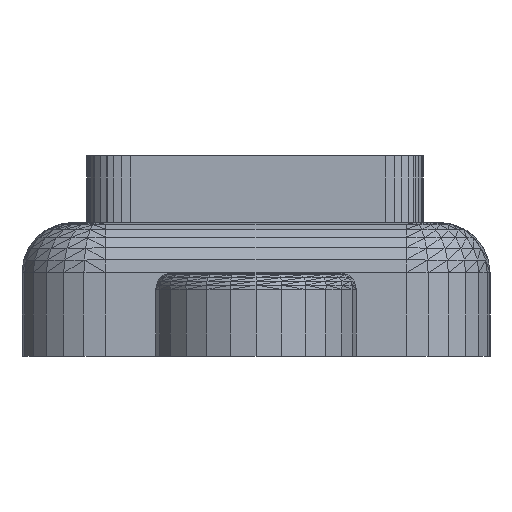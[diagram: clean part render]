
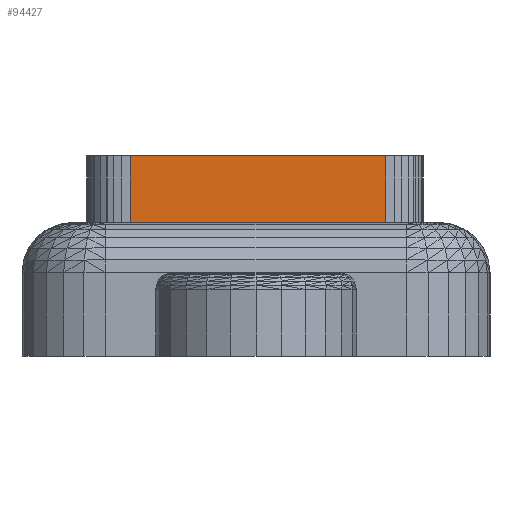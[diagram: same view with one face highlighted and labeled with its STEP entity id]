
A CAD part, left-side view. The second image highlights one B-rep face of the part: STEP entity #94427.
In plain terms, the highlighted planar face has unit normal (-1, 0, 0).
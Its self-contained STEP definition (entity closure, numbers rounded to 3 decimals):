
#126 = PLANE('',#127);
#127 = AXIS2_PLACEMENT_3D('',#128,#129,#130);
#128 = CARTESIAN_POINT('',(83.88,11.2,
    4.));
#129 = DIRECTION('',(-0.,0.,1.));
#130 = DIRECTION('',(1.,0.,0.));
#76035 = VERTEX_POINT('',#76036);
#76036 = CARTESIAN_POINT('',(38.567,3.121,
    4.));
#76050 = PLANE('',#76051);
#76051 = AXIS2_PLACEMENT_3D('',#76052,#76053,#76054);
#76052 = CARTESIAN_POINT('',(38.596,2.859,
    4.));
#76053 = DIRECTION('',(-0.994,-0.11,0.));
#76054 = DIRECTION('',(0.11,-0.994,0.));
#76062 = EDGE_CURVE('',#76035,#76063,#76065,.T.);
#76063 = VERTEX_POINT('',#76064);
#76064 = CARTESIAN_POINT('',(38.567,10.758,
    4.));
#76065 = SURFACE_CURVE('',#76066,(#76070,#76077),.PCURVE_S1.);
#76066 = LINE('',#76067,#76068);
#76067 = CARTESIAN_POINT('',(38.567,3.121,
    4.));
#76068 = VECTOR('',#76069,1.);
#76069 = DIRECTION('',(0.,1.,0.));
#76070 = PCURVE('',#126,#76071);
#76071 = DEFINITIONAL_REPRESENTATION('',(#76072),#76076);
#76072 = LINE('',#76073,#76074);
#76073 = CARTESIAN_POINT('',(-45.313,-8.079));
#76074 = VECTOR('',#76075,1.);
#76075 = DIRECTION('',(0.,1.));
#76076 = ( GEOMETRIC_REPRESENTATION_CONTEXT(2) 
PARAMETRIC_REPRESENTATION_CONTEXT() REPRESENTATION_CONTEXT('2D SPACE',''
  ) );
#76077 = PCURVE('',#76078,#76083);
#76078 = PLANE('',#76079);
#76079 = AXIS2_PLACEMENT_3D('',#76080,#76081,#76082);
#76080 = CARTESIAN_POINT('',(38.567,3.121,
    4.));
#76081 = DIRECTION('',(-1.,0.,0.));
#76082 = DIRECTION('',(0.,0.,-1.));
#76083 = DEFINITIONAL_REPRESENTATION('',(#76084),#76088);
#76084 = LINE('',#76085,#76086);
#76085 = CARTESIAN_POINT('',(0.,-0.));
#76086 = VECTOR('',#76087,1.);
#76087 = DIRECTION('',(0.,-1.));
#76088 = ( GEOMETRIC_REPRESENTATION_CONTEXT(2) 
PARAMETRIC_REPRESENTATION_CONTEXT() REPRESENTATION_CONTEXT('2D SPACE',''
  ) );
#76106 = PLANE('',#76107);
#76107 = AXIS2_PLACEMENT_3D('',#76108,#76109,#76110);
#76108 = CARTESIAN_POINT('',(38.567,10.758,
    4.));
#76109 = DIRECTION('',(-0.999,0.048,0.));
#76110 = DIRECTION('',(-0.048,-0.999,0.));
#92826 = PLANE('',#92827);
#92827 = AXIS2_PLACEMENT_3D('',#92828,#92829,#92830);
#92828 = CARTESIAN_POINT('',(38.654,2.634,
    6.));
#92829 = DIRECTION('',(-0.,-0.,1.));
#92830 = DIRECTION('',(1.,0.,0.));
#94382 = EDGE_CURVE('',#76063,#94383,#94385,.T.);
#94383 = VERTEX_POINT('',#94384);
#94384 = CARTESIAN_POINT('',(38.567,10.758,
    6.));
#94385 = SURFACE_CURVE('',#94386,(#94390,#94397),.PCURVE_S1.);
#94386 = LINE('',#94387,#94388);
#94387 = CARTESIAN_POINT('',(38.567,10.758,
    4.));
#94388 = VECTOR('',#94389,1.);
#94389 = DIRECTION('',(0.,0.,1.));
#94390 = PCURVE('',#76106,#94391);
#94391 = DEFINITIONAL_REPRESENTATION('',(#94392),#94396);
#94392 = LINE('',#94393,#94394);
#94393 = CARTESIAN_POINT('',(0.,0.));
#94394 = VECTOR('',#94395,1.);
#94395 = DIRECTION('',(0.,1.));
#94396 = ( GEOMETRIC_REPRESENTATION_CONTEXT(2) 
PARAMETRIC_REPRESENTATION_CONTEXT() REPRESENTATION_CONTEXT('2D SPACE',''
  ) );
#94397 = PCURVE('',#76078,#94398);
#94398 = DEFINITIONAL_REPRESENTATION('',(#94399),#94403);
#94399 = LINE('',#94400,#94401);
#94400 = CARTESIAN_POINT('',(0.,-7.637));
#94401 = VECTOR('',#94402,1.);
#94402 = DIRECTION('',(-1.,-0.));
#94403 = ( GEOMETRIC_REPRESENTATION_CONTEXT(2) 
PARAMETRIC_REPRESENTATION_CONTEXT() REPRESENTATION_CONTEXT('2D SPACE',''
  ) );
#94427 = ADVANCED_FACE('',(#94428),#76078,.T.);
#94428 = FACE_BOUND('',#94429,.T.);
#94429 = EDGE_LOOP('',(#94430,#94453,#94474,#94475));
#94430 = ORIENTED_EDGE('',*,*,#94431,.T.);
#94431 = EDGE_CURVE('',#76035,#94432,#94434,.T.);
#94432 = VERTEX_POINT('',#94433);
#94433 = CARTESIAN_POINT('',(38.567,3.121,
    6.));
#94434 = SURFACE_CURVE('',#94435,(#94439,#94446),.PCURVE_S1.);
#94435 = LINE('',#94436,#94437);
#94436 = CARTESIAN_POINT('',(38.567,3.121,
    4.));
#94437 = VECTOR('',#94438,1.);
#94438 = DIRECTION('',(0.,0.,1.));
#94439 = PCURVE('',#76078,#94440);
#94440 = DEFINITIONAL_REPRESENTATION('',(#94441),#94445);
#94441 = LINE('',#94442,#94443);
#94442 = CARTESIAN_POINT('',(0.,-0.));
#94443 = VECTOR('',#94444,1.);
#94444 = DIRECTION('',(-1.,-0.));
#94445 = ( GEOMETRIC_REPRESENTATION_CONTEXT(2) 
PARAMETRIC_REPRESENTATION_CONTEXT() REPRESENTATION_CONTEXT('2D SPACE',''
  ) );
#94446 = PCURVE('',#76050,#94447);
#94447 = DEFINITIONAL_REPRESENTATION('',(#94448),#94452);
#94448 = LINE('',#94449,#94450);
#94449 = CARTESIAN_POINT('',(-0.264,0.));
#94450 = VECTOR('',#94451,1.);
#94451 = DIRECTION('',(0.,1.));
#94452 = ( GEOMETRIC_REPRESENTATION_CONTEXT(2) 
PARAMETRIC_REPRESENTATION_CONTEXT() REPRESENTATION_CONTEXT('2D SPACE',''
  ) );
#94453 = ORIENTED_EDGE('',*,*,#94454,.T.);
#94454 = EDGE_CURVE('',#94432,#94383,#94455,.T.);
#94455 = SURFACE_CURVE('',#94456,(#94460,#94467),.PCURVE_S1.);
#94456 = LINE('',#94457,#94458);
#94457 = CARTESIAN_POINT('',(38.567,3.121,
    6.));
#94458 = VECTOR('',#94459,1.);
#94459 = DIRECTION('',(0.,1.,0.));
#94460 = PCURVE('',#76078,#94461);
#94461 = DEFINITIONAL_REPRESENTATION('',(#94462),#94466);
#94462 = LINE('',#94463,#94464);
#94463 = CARTESIAN_POINT('',(-2.,-0.));
#94464 = VECTOR('',#94465,1.);
#94465 = DIRECTION('',(0.,-1.));
#94466 = ( GEOMETRIC_REPRESENTATION_CONTEXT(2) 
PARAMETRIC_REPRESENTATION_CONTEXT() REPRESENTATION_CONTEXT('2D SPACE',''
  ) );
#94467 = PCURVE('',#92826,#94468);
#94468 = DEFINITIONAL_REPRESENTATION('',(#94469),#94473);
#94469 = LINE('',#94470,#94471);
#94470 = CARTESIAN_POINT('',(-0.088,0.488));
#94471 = VECTOR('',#94472,1.);
#94472 = DIRECTION('',(0.,1.));
#94473 = ( GEOMETRIC_REPRESENTATION_CONTEXT(2) 
PARAMETRIC_REPRESENTATION_CONTEXT() REPRESENTATION_CONTEXT('2D SPACE',''
  ) );
#94474 = ORIENTED_EDGE('',*,*,#94382,.F.);
#94475 = ORIENTED_EDGE('',*,*,#76062,.F.);
